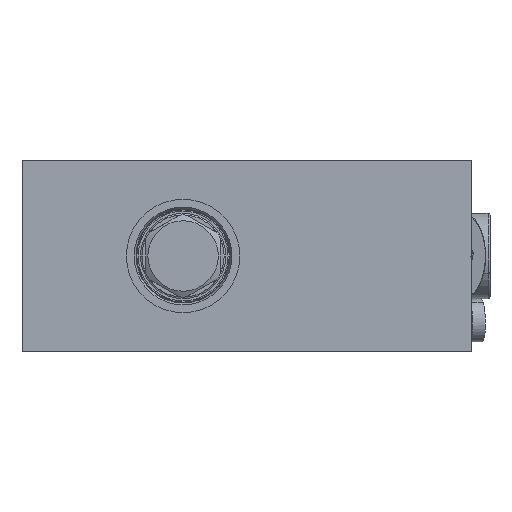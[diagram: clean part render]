
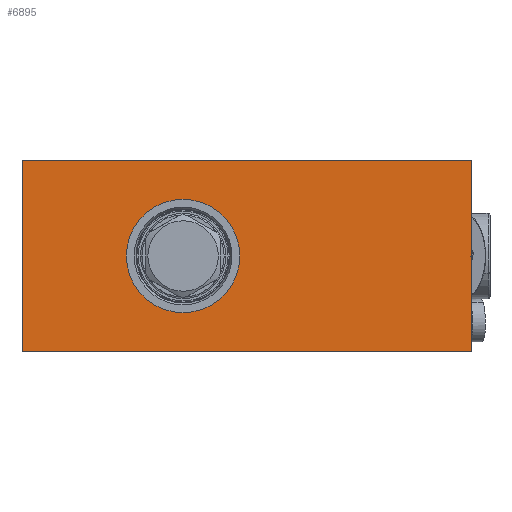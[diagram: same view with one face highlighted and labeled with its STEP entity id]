
A CAD part, left-side view. The second image highlights one B-rep face of the part: STEP entity #6895.
In plain terms, the highlighted planar face has unit normal (-1, 0, 0).
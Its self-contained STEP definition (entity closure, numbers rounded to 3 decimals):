
#542 = VECTOR ( 'NONE', #15174, 1000. ) ;
#1347 = DIRECTION ( 'NONE',  ( 0., 0., 1. ) ) ;
#1856 = ORIENTED_EDGE ( 'NONE', *, *, #24120, .F. ) ;
#2584 = FACE_BOUND ( 'NONE', #8754, .T. ) ;
#2990 = CARTESIAN_POINT ( 'NONE',  ( -49., -57.5, 24.5 ) ) ;
#4007 = EDGE_CURVE ( 'NONE', #18085, #27251, #25356, .T. ) ;
#5036 = CARTESIAN_POINT ( 'NONE',  ( -49., 1.8, 0. ) ) ;
#5095 = VERTEX_POINT ( 'NONE', #40284 ) ;
#5537 = FACE_OUTER_BOUND ( 'NONE', #14544, .T. ) ;
#6895 = ADVANCED_FACE ( 'NONE', ( #2584, #5537 ), #30925, .F. ) ;
#7634 = EDGE_CURVE ( 'NONE', #18671, #27251, #14075, .T. ) ;
#7702 = LINE ( 'NONE', #32343, #9007 ) ;
#8254 = CIRCLE ( 'NONE', #16443, 14.5 ) ;
#8492 = DIRECTION ( 'NONE',  ( 1., 0., 0. ) ) ;
#8754 = EDGE_LOOP ( 'NONE', ( #41352, #1856 ) ) ;
#9007 = VECTOR ( 'NONE', #1347, 1000. ) ;
#9377 = EDGE_CURVE ( 'NONE', #5095, #18671, #34274, .T. ) ;
#10711 = CARTESIAN_POINT ( 'NONE',  ( -49., -57.5, 24.5 ) ) ;
#10772 = CARTESIAN_POINT ( 'NONE',  ( -49., 16.3, 0. ) ) ;
#11789 = CARTESIAN_POINT ( 'NONE',  ( -49., 57.5, 24.5 ) ) ;
#12445 = CARTESIAN_POINT ( 'NONE',  ( -49., 30.8, 0. ) ) ;
#12635 = DIRECTION ( 'NONE',  ( -1., 0., 0. ) ) ;
#14075 = LINE ( 'NONE', #10711, #24538 ) ;
#14544 = EDGE_LOOP ( 'NONE', ( #34472, #19710, #22574, #31818 ) ) ;
#15174 = DIRECTION ( 'NONE',  ( 0., -1., 0. ) ) ;
#16443 = AXIS2_PLACEMENT_3D ( 'NONE', #41632, #12635, #22396 ) ;
#17470 = CARTESIAN_POINT ( 'NONE',  ( -49., -57.5, -24.5 ) ) ;
#18085 = VERTEX_POINT ( 'NONE', #28053 ) ;
#18671 = VERTEX_POINT ( 'NONE', #17470 ) ;
#19710 = ORIENTED_EDGE ( 'NONE', *, *, #4007, .F. ) ;
#19949 = EDGE_CURVE ( 'NONE', #5095, #18085, #7702, .T. ) ;
#20354 = AXIS2_PLACEMENT_3D ( 'NONE', #10772, #23296, #29854 ) ;
#22396 = DIRECTION ( 'NONE',  ( 0., -1., 0. ) ) ;
#22404 = DIRECTION ( 'NONE',  ( 0., -1., 0. ) ) ;
#22574 = ORIENTED_EDGE ( 'NONE', *, *, #19949, .F. ) ;
#23296 = DIRECTION ( 'NONE',  ( -1., 0., 0. ) ) ;
#24120 = EDGE_CURVE ( 'NONE', #25183, #30334, #8254, .T. ) ;
#24538 = VECTOR ( 'NONE', #35942, 1000. ) ;
#25183 = VERTEX_POINT ( 'NONE', #12445 ) ;
#25356 = LINE ( 'NONE', #11789, #542 ) ;
#27251 = VERTEX_POINT ( 'NONE', #2990 ) ;
#27822 = CIRCLE ( 'NONE', #20354, 14.5 ) ;
#28053 = CARTESIAN_POINT ( 'NONE',  ( -49., 57.5, 24.5 ) ) ;
#29390 = CARTESIAN_POINT ( 'NONE',  ( -49., 57.5, -24.5 ) ) ;
#29854 = DIRECTION ( 'NONE',  ( 0., -1., 0. ) ) ;
#30334 = VERTEX_POINT ( 'NONE', #5036 ) ;
#30925 = PLANE ( 'NONE',  #33163 ) ;
#31559 = DIRECTION ( 'NONE',  ( 0., 0., -1. ) ) ;
#31818 = ORIENTED_EDGE ( 'NONE', *, *, #9377, .T. ) ;
#32343 = CARTESIAN_POINT ( 'NONE',  ( -49., 57.5, 24.5 ) ) ;
#33163 = AXIS2_PLACEMENT_3D ( 'NONE', #40409, #8492, #31559 ) ;
#34274 = LINE ( 'NONE', #29390, #39907 ) ;
#34472 = ORIENTED_EDGE ( 'NONE', *, *, #7634, .T. ) ;
#35942 = DIRECTION ( 'NONE',  ( 0., 0., 1. ) ) ;
#39907 = VECTOR ( 'NONE', #22404, 1000. ) ;
#40284 = CARTESIAN_POINT ( 'NONE',  ( -49., 57.5, -24.5 ) ) ;
#40409 = CARTESIAN_POINT ( 'NONE',  ( -49., 57.5, 24.5 ) ) ;
#40864 = EDGE_CURVE ( 'NONE', #30334, #25183, #27822, .T. ) ;
#41352 = ORIENTED_EDGE ( 'NONE', *, *, #40864, .F. ) ;
#41632 = CARTESIAN_POINT ( 'NONE',  ( -49., 16.3, 0. ) ) ;
